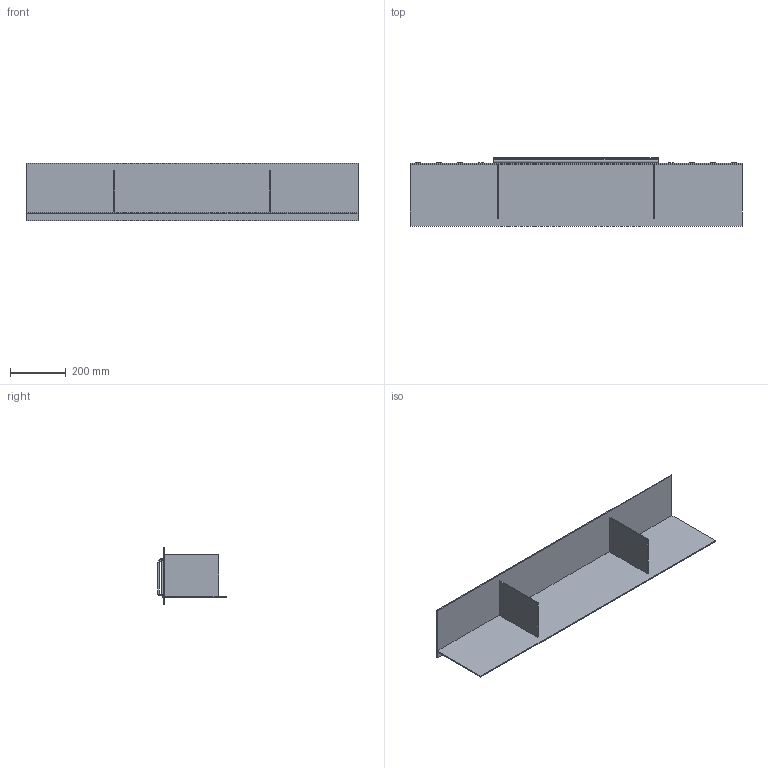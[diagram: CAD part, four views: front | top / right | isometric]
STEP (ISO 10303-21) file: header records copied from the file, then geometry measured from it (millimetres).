
FILE_DESCRIPTION(/* description */ (''),/* implementation_level */ '2;1');
FILE_NAME(/* name */ 'FRAMA_Rivet-Shelf-L-3D',/* time_stamp */ '2025-10-21T14:08:01+02:00',/* author */ (''),/* organization */ (''),/* preprocessor_version */ 'ST-DEVELOPER v16.5',/* originating_system */ 'Rhino 7.38',/* authorisation */ '');
FILE_SCHEMA (('CONFIG_CONTROL_DESIGN'));
Length unit declared in the file: millimetre
Products named in the file (4): Document; Shelf Divider; Base Piece; Back Piece
Assembly tree (6 placements, depth 2):
  Document
    Shelf Divider  x3
    Base Piece  x2
    Back Piece
Bounding box: 1190 x 244.68 x 206.5 mm (x, y, z)
Volume: 4119942.6 mm3; surface area: 2117704 mm2
Topology: 8 solids, 8 shells, 683 faces, 2001 edges, 1334 vertices
Faces by surface type: plane 574, cylinder 109
Entity records: 11357 total; most frequent: CARTESIAN_POINT 3595, ORIENTED_EDGE 2190, EDGE_CURVE 1095, B_SPLINE_CURVE_WITH_KNOTS 965, VERTEX_POINT 730, EDGE_LOOP 435, DIRECTION 403, AXIS2_PLACEMENT_3D 389
